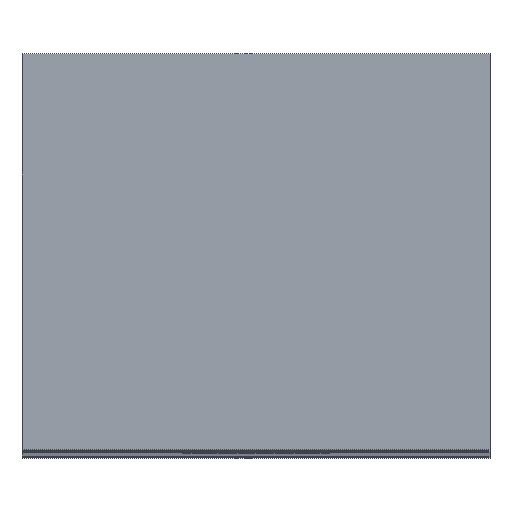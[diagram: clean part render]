
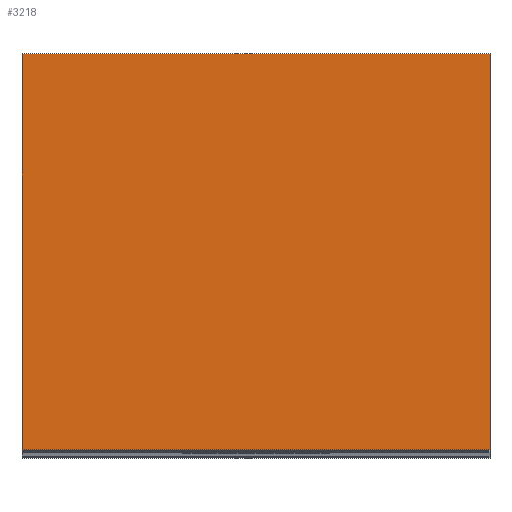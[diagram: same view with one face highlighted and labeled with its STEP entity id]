
A CAD part, top view. The second image highlights one B-rep face of the part: STEP entity #3218.
In plain terms, the highlighted planar face has unit normal (0, 0, 1).
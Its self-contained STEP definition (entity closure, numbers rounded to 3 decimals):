
#176=FACE_OUTER_BOUND('',#334,.T.);
#334=EDGE_LOOP('',(#2897,#2898,#2899,#2900));
#392=LINE('',#4289,#844);
#469=LINE('',#4442,#921);
#654=LINE('',#4811,#1106);
#656=LINE('',#4814,#1108);
#844=VECTOR('',#3485,10.);
#921=VECTOR('',#3576,10.);
#1106=VECTOR('',#3893,10.);
#1108=VECTOR('',#3897,10.);
#1289=VERTEX_POINT('',#4286);
#1290=VERTEX_POINT('',#4288);
#1359=VERTEX_POINT('',#4441);
#1477=VERTEX_POINT('',#4809);
#1604=EDGE_CURVE('',#1290,#1289,#392,.T.);
#1681=EDGE_CURVE('',#1359,#1290,#469,.T.);
#1866=EDGE_CURVE('',#1289,#1477,#654,.T.);
#1868=EDGE_CURVE('',#1477,#1359,#656,.T.);
#2897=ORIENTED_EDGE('',*,*,#1868,.T.);
#2898=ORIENTED_EDGE('',*,*,#1681,.T.);
#2899=ORIENTED_EDGE('',*,*,#1604,.T.);
#2900=ORIENTED_EDGE('',*,*,#1866,.T.);
#3063=PLANE('',#3391);
#3218=ADVANCED_FACE('',(#176),#3063,.T.);
#3391=AXIS2_PLACEMENT_3D('',#5078,#4159,#4160);
#3485=DIRECTION('',(0.,-1.,0.));
#3576=DIRECTION('',(-1.,0.,0.));
#3893=DIRECTION('',(1.,0.,0.));
#3897=DIRECTION('',(0.,1.,0.));
#4159=DIRECTION('center_axis',(0.,0.,1.));
#4160=DIRECTION('ref_axis',(1.,0.,0.));
#4286=CARTESIAN_POINT('',(83.5,34.5,248.));
#4288=CARTESIAN_POINT('',(83.5,45.5,248.));
#4289=CARTESIAN_POINT('',(83.5,40.,248.));
#4441=CARTESIAN_POINT('',(96.5,45.5,248.));
#4442=CARTESIAN_POINT('',(90.,45.5,248.));
#4809=CARTESIAN_POINT('',(96.5,34.5,248.));
#4811=CARTESIAN_POINT('',(90.,34.5,248.));
#4814=CARTESIAN_POINT('',(96.5,40.,248.));
#5078=CARTESIAN_POINT('Origin',(90.,40.,248.));
